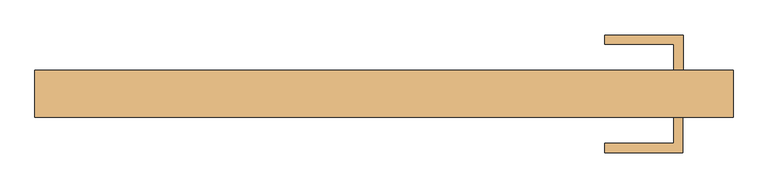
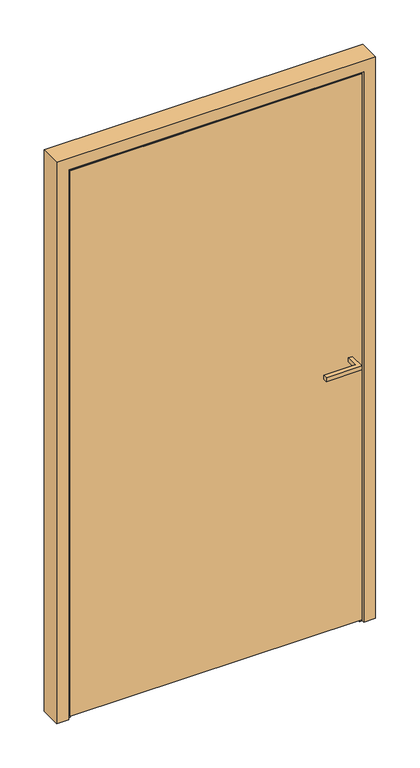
"""IFC4 building model written with IfcOpenShell, lengths in millimetres: door geometry, Reynaers_MasterLine 8_Door_Panel_Inward Opening_Single Vent_Double Sided : Reynaers_MasterLine 8_Door_Panel_Inward Opening_Single Vent_Double Sided."""

from ifc_helpers import new_model, si_unit, frame, origin, place, context, project, spatial, polyline, outline, extrude, faceted_brep, source, transform, mapped, element, save


def door_e4422ea3(model_context):
    return source(origin(), model_context, "Body", "SolidModel", [
        extrude(outline(polyline([(488.2934348, 42.5), (473.2934348, 42.5), (473.2934348, 85.0), (360.7934348, 85.0), (360.7934348, 100.0), (488.2934348, 100.0), (488.2934348, 42.5)])), frame((0.0, 0.0, 1001.0), z_axis=(0.0, 0.0, 1.0), x_axis=(1.0, 0.0, 0.0)), (0.0, 0.0, 1.0), 15.0),
        extrude(outline(polyline([(488.0, -34.5), (488.0, -92.0), (360.5, -92.0), (360.5, -77.0), (473.0, -77.0), (473.0, -34.5), (488.0, -34.5)])), frame((0.0, 0.0, 1001.0), z_axis=(0.0, 0.0, 1.0), x_axis=(1.0, 0.0, 0.0)), (0.0, 0.0, 1.0), 15.0),
        extrude(outline(polyline([(-492.5, 39.5), (-492.5, 42.5), (492.5, 42.5), (492.5, 39.5), (-492.5, 39.5)])), frame((0.0, 0.0, 11.0), z_axis=(0.0, 0.0, 1.0), x_axis=(1.0, 0.0, 0.0)), (0.0, 0.0, 1.0), 26.0),
        extrude(outline(polyline([(7.9013514, 23.3), (6.4491892, 1.808), (1.5508108, 1.808), (0.0986486, 23.3), (7.9013514, 23.3)])), frame((-492.5, 0.0, 0.0), z_axis=(1.0, 0.0, 0.0), x_axis=(0.0, 1.0, 0.0)), (0.0, 0.0, 1.0), 985.0),
        faceted_brep([(-501.5, 38.7001836, 0.0), (-516.5, 38.7001836, 0.0), (-516.5, -25.7, 0.0), (-527.5, -25.7, 0.0), (-527.5, -34.5, 0.0), (-570.0, -34.5, 0.0), (-570.0, 42.5, 0.0), (-501.5, 42.5, 0.0), (-501.5, 38.7001836, 2051.5), (501.5, 38.7001836, 2051.5), (501.5, 38.7001836, 0.0), (516.5, 38.7001836, 0.0), (516.5, 38.7001836, 2066.5), (-516.5, 38.7001836, 2066.5), (-570.0, -34.5, 2120.0), (-570.0, 42.5, 2120.0), (570.0, 42.5, 2120.0), (570.0, 42.5, 0.0), (501.5, 42.5, 0.0), (501.5, 42.5, 2051.5), (-501.5, 42.5, 2051.5), (570.0, -34.5, 2120.0), (570.0, -34.5, 0.0), (527.5, -34.5, 0.0), (527.5, -25.7, 0.0), (516.5, -25.7, 0.0), (-516.5, -25.7, 2066.5), (-527.5, -34.5, 2077.5), (527.5, -34.5, 2077.5), (516.5, -25.7, 2066.5), (527.5, -25.7, 2077.5), (-527.5, -25.7, 2077.5)], [[[0, 1, 2, 3, 4, 5, 6, 7]], [[1, 0, 8, 9, 10, 11, 12, 13]], [[6, 5, 14, 15]], [[7, 6, 15, 16, 17, 18, 19, 20]], [[0, 7, 20, 8]], [[15, 14, 21, 16]], [[8, 20, 19, 9]], [[10, 18, 17, 22, 23, 24, 25, 11]], [[16, 21, 22, 17]], [[9, 19, 18, 10]], [[2, 1, 13, 26]], [[5, 4, 27, 28, 23, 22, 21, 14]], [[26, 13, 12, 29]], [[29, 12, 11, 25]], [[3, 2, 26, 29, 25, 24, 30, 31]], [[4, 3, 31, 27]], [[27, 31, 30, 28]], [[28, 30, 24, 23]]]),
        faceted_brep([(-444.0, -31.5, 1994.0), (-444.0, 39.5, 1994.0), (444.0, 39.5, 1994.0), (444.0, -31.5, 1994.0), (-495.5, -25.7, 2045.5), (-495.5, -31.5, 2045.5), (495.5, -31.5, 2045.5), (495.5, -25.7, 2045.5), (444.0, 39.5, 88.5), (444.0, -31.5, 88.5), (495.5, -31.5, 37.0), (495.5, -25.7, 37.0), (-444.0, 39.5, 88.5), (-444.0, -31.5, 88.5), (-495.5, -31.5, 37.0), (-495.5, -25.7, 37.0), (-506.5, -25.7, 2056.5), (-506.5, -25.7, 26.0), (506.5, -25.7, 26.0), (506.5, -25.7, 2056.5), (-506.5, 33.7001837, 2056.5), (506.5, 33.7001837, 2056.5), (-495.5, 39.5, 2045.5), (-495.5, 33.7001837, 2045.5), (495.5, 33.7001837, 2045.5), (495.5, 39.5, 2045.5), (506.5, 33.7001837, 26.0), (495.5, 33.7001837, 37.0), (495.5, 39.5, 37.0), (-506.5, 33.7001837, 26.0), (-495.5, 33.7001837, 37.0), (-495.5, 39.5, 37.0)], [[[0, 1, 2, 3]], [[4, 5, 6, 7]], [[3, 2, 8, 9]], [[7, 6, 10, 11]], [[9, 8, 12, 13]], [[11, 10, 14, 15]], [[13, 12, 1, 0]], [[5, 14, 10, 6], [3, 9, 13, 0]], [[15, 14, 5, 4]], [[16, 17, 18, 19], [7, 11, 15, 4]], [[20, 16, 19, 21]], [[22, 23, 24, 25]], [[21, 19, 18, 26]], [[25, 24, 27, 28]], [[26, 18, 17, 29]], [[28, 27, 30, 31]], [[29, 17, 16, 20]], [[21, 26, 29, 20], [23, 30, 27, 24]], [[31, 30, 23, 22]], [[25, 28, 31, 22], [1, 12, 8, 2]]]),
        extrude(outline(polyline([(495.5, 42.5), (495.5, 39.5), (-495.5, 39.5), (-495.5, 42.5), (495.5, 42.5)])), frame((0.0, 0.0, 37.0), z_axis=(0.0, 0.0, 1.0), x_axis=(1.0, 0.0, 0.0)), (0.0, 0.0, 1.0), 2008.5),
        extrude(outline(polyline([(521.5, -31.5), (521.5, -34.5), (-521.5, -34.5), (-521.5, -31.5), (521.5, -31.5)])), frame((0.0, 0.0, 11.0), z_axis=(0.0, 0.0, 1.0), x_axis=(1.0, 0.0, 0.0)), (0.0, 0.0, 1.0), 2060.5),
        extrude(outline(polyline([(439.0, -31.5), (-439.0, -31.5), (-439.0, 39.5), (439.0, 39.5), (439.0, -31.5)])), frame((0.0, 0.0, 93.5), z_axis=(0.0, 0.0, 1.0), x_axis=(1.0, 0.0, 0.0)), (0.0, 0.0, 1.0), 1895.5),
    ])


if __name__ == "__main__":
    model = new_model("IFC4")
    model_context = context("Model", 3, world=origin())
    ifc_project = project(units=[si_unit("LENGTHUNIT", "METRE", prefix="MILLI")], contexts=[model_context])
    site = spatial("IfcSite", under=ifc_project)
    building = spatial("IfcBuilding", under=site)
    placement = place(None, origin())
    door_shape = door_e4422ea3(model_context)
    element("IfcDoor", 1, ObjectType="Reynaers_MasterLine 8_Door_Panel_Inward Opening_Single Vent_Double Sided : Reynaers_MasterLine 8_Door_Panel_Inward Opening_Single Vent_Double Sided", at=placement, inside=building, context=model_context, shape_type="MappedRepresentation", body=[
        mapped(door_shape, transform((0.0, 0.0, 0.0), x_axis=(1.0, 0.0, 0.0), y_axis=(0.0, 1.0, 0.0), z_axis=(0.0, 0.0, 1.0))),
    ])
    save(model, "model.ifc")
